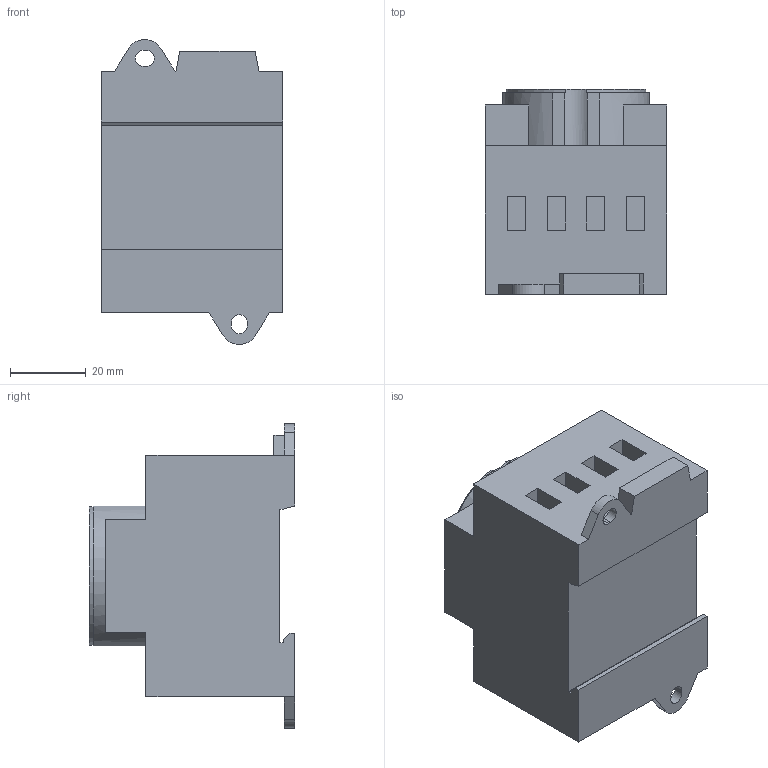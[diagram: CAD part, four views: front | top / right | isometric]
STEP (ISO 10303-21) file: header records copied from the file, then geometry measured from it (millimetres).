
FILE_DESCRIPTION (( 'STEP AP203' ), '1' );
FILE_NAME ('LTS25 V A4 Schalterkörper.STEP', '2014-03-14T10:06:45', ( '' ), ( '' ), 'SwSTEP 2.0', 'SolidWorks 2014', '' );
FILE_SCHEMA (( 'CONFIG_CONTROL_DESIGN' ));
Length unit declared in the file: millimetre
Products named in the file (1): LTS25 V A4 Schalterkörper
Bounding box: 48 x 54.4 x 80.8 mm (x, y, z)
Volume: 128937.9 mm3; surface area: 23220.3 mm2
Topology: 1 solids, 1 shells, 133 faces, 341 edges, 227 vertices
Faces by surface type: plane 97, cylinder 34, cone 2
Entity records: 4117 total; most frequent: CARTESIAN_POINT 720, DIRECTION 682, ORIENTED_EDGE 682, EDGE_CURVE 341, LINE 256, VECTOR 256, VERTEX_POINT 227, AXIS2_PLACEMENT_3D 213
